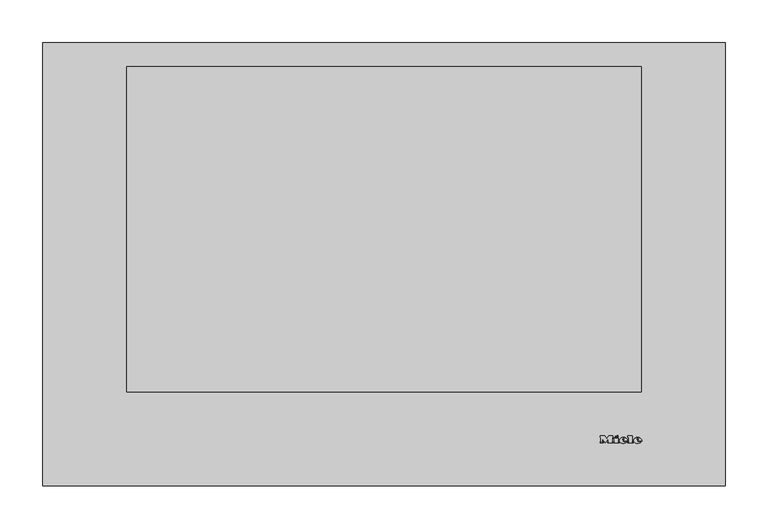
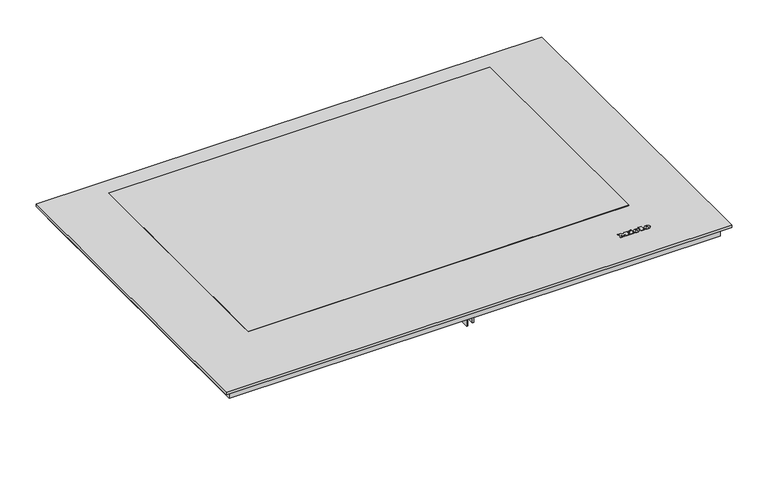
"""IFC4 building model written with IfcOpenShell, lengths in millimetres: proxy geometry, 11249900_I_KM7677FL : 26767770_I_11249900_KM7677FL."""

from ifc_helpers import new_model, si_unit, point, frame, frame_2d, origin, origin_with_axes, place, context, project, spatial, polyline, circle_curve, ellipse_curve, trimmed, segment, composite_curve, outline, extrude, source, transform, mapped, element, save
from ifc_brep_helpers import plane_surface, cylinder_surface, revolved_surface, extruded_surface, advanced_brep


def specialty_equipment_b0dcab6c(model_context):
    return source(origin(), model_context, "Body", "SolidModel", [
        advanced_brep(
        [(296.56, 52.3948833, 4.4802537), (296.56, 53.2028828, 4.4811551), (301.912, 53.2028828, 4.4811551), (292.6, 53.2028828, 4.4811551), (294.8, 50.4988845, 4.4781386), (301.776, 52.3948833, 4.4802537), (299.36, 52.3948833, 4.4802537), (297.456, 51.4988838, 4.4792542), (296.56, 54.2268821, 4.4822974), (296.56, 55.0988816, 4.4832701), (297.928, 55.0988816, 4.4832701), (297.928, 54.2268821, 4.4822974), (296.56, 52.3959988, 3.4802543), (297.456, 51.4999994, 3.4792548), (299.36, 52.3959988, 3.4802543), (301.776, 52.3959988, 3.4802543), (294.8, 50.5, 3.4781393), (292.6, 53.2039983, 3.4811557), (301.912, 53.2039983, 3.4811557), (296.56, 53.2039983, 3.4811557), (296.56, 54.2279977, 3.482298), (297.928, 54.2279977, 3.482298), (297.928, 55.0999971, 3.4832707), (296.56, 55.0999971, 3.4832707)],
        [
            (0, 1),
            (1, 2),
            (2, 3, ellipse_curve(frame((297.256, 53.2028828, 4.4811551), z_axis=(0.0, -0.0011155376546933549, 0.9999993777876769), x_axis=(-1.0, 0.0, 0.0)), 4.656, 3.848)),
            (3, 4, circle_curve(frame((295.6960436, 53.4748826, 4.4814585), z_axis=(0.0, -0.0011155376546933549, 0.9999993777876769), x_axis=(0.0, -0.9999993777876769, -0.0011155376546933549)), 3.1079688)),
            (4, 5, circle_curve(frame((297.1627936, 55.5868813, 4.4838145), z_axis=(0.0, -0.0011155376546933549, 0.9999993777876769), x_axis=(0.0, -0.9999993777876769, -0.0011155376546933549)), 5.6098607)),
            (5, 6),
            (6, 7, circle_curve(frame((297.8470588, 53.1388828, 4.4810837), z_axis=(0.0, 0.0011155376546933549, -0.9999993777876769), x_axis=(0.0, -0.9999993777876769, -0.0011155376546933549)), 1.6859795)),
            (7, 0, circle_curve(frame((297.456, 52.3948833, 4.4802537), z_axis=(0.0, 0.0011155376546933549, -0.9999993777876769), x_axis=(0.0, -0.9999993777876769, -0.0011155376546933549)), 0.896)),
            (8, 9),
            (9, 10, circle_curve(frame((297.244, 55.0988816, 4.4832701), z_axis=(0.0, 0.0011155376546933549, -0.9999993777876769), x_axis=(0.0, -0.9999993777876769, -0.0011155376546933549)), 0.684)),
            (10, 11),
            (11, 8),
            (12, 13, circle_curve(frame((297.456, 52.3959988, 3.4802543), z_axis=(0.0, -0.0011155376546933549, 0.9999993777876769), x_axis=(0.0, -0.9999993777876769, -0.0011155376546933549)), 0.896)),
            (13, 14, circle_curve(frame((297.8470588, 53.1399984, 3.4810843), z_axis=(0.0, -0.0011155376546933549, 0.9999993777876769), x_axis=(0.0, -0.9999993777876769, -0.0011155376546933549)), 1.6859795)),
            (14, 15),
            (15, 16, circle_curve(frame((297.1627936, 55.5879968, 3.4838151), z_axis=(0.0, 0.0011155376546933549, -0.9999993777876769), x_axis=(0.0, -0.9999993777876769, -0.0011155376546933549)), 5.6098607)),
            (16, 17, circle_curve(frame((295.6960436, 53.4759981, 3.4814591), z_axis=(0.0, 0.0011155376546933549, -0.9999993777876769), x_axis=(0.0, -0.9999993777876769, -0.0011155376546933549)), 3.1079688)),
            (17, 18, ellipse_curve(frame((297.256, 53.2039983, 3.4811557), z_axis=(0.0, 0.0011155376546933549, -0.9999993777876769), x_axis=(-1.0, 0.0, 0.0)), 4.656, 3.848)),
            (18, 19),
            (19, 12),
            (20, 21),
            (21, 22),
            (22, 23, circle_curve(frame((297.244, 55.0999971, 3.4832707), z_axis=(0.0, -0.0011155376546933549, 0.9999993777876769), x_axis=(0.0, -0.9999993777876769, -0.0011155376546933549)), 0.684)),
            (23, 20),
            (0, 12),
            (19, 1),
            (18, 2),
            (5, 15),
            (14, 6),
            (17, 3),
            (13, 7),
            (16, 4),
            (8, 20),
            (23, 9),
            (22, 10),
            (21, 11),
        ],
        [
            plane_surface(frame((296.56, 53.2028828, 4.4811551), z_axis=(0.0, -0.0011155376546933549, 0.9999993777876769), x_axis=(0.0, 0.9999993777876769, 0.0011155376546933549))),
            plane_surface(frame((296.56, 53.2039983, 3.4811557), z_axis=(0.0, 0.0011155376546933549, -0.9999993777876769), x_axis=(0.0, -0.9999993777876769, -0.0011155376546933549))),
            plane_surface(frame((296.56, 52.3948833, 4.4802537), z_axis=(1.0000000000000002, 0.0, 0.0), x_axis=(0.0, 0.001115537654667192, -0.999999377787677))),
            plane_surface(frame((296.56, 53.2028828, 4.4811551), z_axis=(0.0, -0.999999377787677, -0.001115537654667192), x_axis=(0.0, 0.001115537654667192, -0.999999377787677))),
            plane_surface(frame((301.776, 52.3948833, 4.4802537), z_axis=(0.0, 0.999999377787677, 0.001115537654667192), x_axis=(0.0, 0.001115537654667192, -0.999999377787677))),
            extruded_surface(trimmed(ellipse_curve(frame((297.256, 53.2051139, 2.4811563), z_axis=(0.0, -0.0011155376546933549, 0.9999993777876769), x_axis=(-1.0, 0.0, 0.0)), 4.656, 3.848), [point((301.912, 53.2051139, 2.4811563))], [point((292.6, 53.2051139, 2.4811563))], True, "CARTESIAN"), (0.0, -0.001115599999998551, 0.9999994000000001), 1.00000002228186),
            revolved_surface(polyline([(297.8470588, 51.454019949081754, 3.479203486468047), (297.8470588, 51.45290441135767, 4.4792029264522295)]), (297.8470588, 53.1399984, 3.4810843), (0.0, 0.0011155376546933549, -0.9999993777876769)),
            revolved_surface(polyline([(297.456, 51.49999935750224, 3.4792547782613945), (297.456, 51.49888381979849, 4.479254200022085)]), (297.456, 52.3959988, 3.4802543), (0.0, 0.0011155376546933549, -0.9999993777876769)),
            cylinder_surface(frame((295.6960436, 53.4759981, 3.4814591), z_axis=(0.0, -0.0011155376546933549, 0.9999993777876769), x_axis=(0.0, -0.9999993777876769, -0.0011155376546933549)), 3.1079688),
            cylinder_surface(frame((297.1627936, 55.5879968, 3.4838151), z_axis=(0.0, -0.0011155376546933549, 0.9999993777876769), x_axis=(0.0, -0.9999993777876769, -0.0011155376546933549)), 5.6098607),
            plane_surface(frame((296.56, 54.2268821, 4.4822974), z_axis=(1.0000000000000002, 0.0, 0.0), x_axis=(0.0, 0.001115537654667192, -0.999999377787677))),
            revolved_surface(polyline([(297.244, 54.415997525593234, 3.4825076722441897), (297.244, 54.41488198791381, 4.482507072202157)]), (297.244, 55.0999971, 3.4832707), (0.0, 0.0011155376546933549, -0.9999993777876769)),
            plane_surface(frame((297.928, 55.0988816, 4.4832701), z_axis=(-1.0000000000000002, 0.0, 0.0), x_axis=(0.0, 0.001115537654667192, -0.999999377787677))),
            plane_surface(frame((297.928, 54.2268821, 4.4822974), z_axis=(0.0, 0.999999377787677, 0.001115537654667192), x_axis=(0.0, 0.001115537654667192, -0.999999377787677))),
        ],
        [
            (0, [[1, 2, 3, 4, 5, 6, 7, 8], [9, 10, 11, 12]]),
            (1, [[13, 14, 15, 16, 17, 18, 19, 20], [21, 22, 23, 24]]),
            (2, [[-1, 25, -20, 26]]),
            (3, [[-2, -26, -19, 27]]),
            (4, [[-6, 28, -15, 29]]),
            (5, [[-3, -27, -18, 30]]),
            (6, [[-7, -29, -14, 31]]),
            (7, [[-8, -31, -13, -25]]),
            (8, [[-4, -30, -17, 32]]),
            (9, [[-5, -32, -16, -28]]),
            (10, [[-9, 33, -24, 34]]),
            (11, [[-10, -34, -23, 35]]),
            (12, [[-11, -35, -22, 36]]),
            (13, [[-12, -36, -21, -33]]),
        ],
    ),
        advanced_brep(
        [(279.864, 52.3948833, 4.4802537), (279.864, 53.2028828, 4.4811551), (285.216, 53.2028828, 4.4811551), (275.904, 53.2028828, 4.4811551), (278.104, 50.4988845, 4.4781386), (285.08, 52.3948833, 4.4802537), (282.664, 52.3948833, 4.4802537), (280.76, 51.4988838, 4.4792542), (279.864, 54.2268821, 4.4822974), (279.864, 55.0988816, 4.4832701), (281.232, 55.0988816, 4.4832701), (281.232, 54.2268821, 4.4822974), (279.864, 52.3959988, 3.4802543), (280.76, 51.4999994, 3.4792548), (282.664, 52.3959988, 3.4802543), (285.08, 52.3959988, 3.4802543), (278.104, 50.5, 3.4781393), (275.904, 53.2039983, 3.4811557), (285.216, 53.2039983, 3.4811557), (279.864, 53.2039983, 3.4811557), (279.864, 54.2279977, 3.482298), (281.232, 54.2279977, 3.482298), (281.232, 55.0999971, 3.4832707), (279.864, 55.0999971, 3.4832707)],
        [
            (0, 1),
            (1, 2),
            (2, 3, ellipse_curve(frame((280.56, 53.2028828, 4.4811551), z_axis=(0.0, -0.0011155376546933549, 0.9999993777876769), x_axis=(-1.0, 0.0, 0.0)), 4.656, 3.848)),
            (3, 4, circle_curve(frame((279.0000436, 53.4748826, 4.4814585), z_axis=(0.0, -0.0011155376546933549, 0.9999993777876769), x_axis=(0.0, -0.9999993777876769, -0.0011155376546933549)), 3.1079688)),
            (4, 5, circle_curve(frame((280.4667936, 55.5868813, 4.4838145), z_axis=(0.0, -0.0011155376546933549, 0.9999993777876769), x_axis=(0.0, -0.9999993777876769, -0.0011155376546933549)), 5.6098607)),
            (5, 6),
            (6, 7, circle_curve(frame((281.1510588, 53.1388828, 4.4810837), z_axis=(0.0, 0.0011155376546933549, -0.9999993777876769), x_axis=(0.0, -0.9999993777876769, -0.0011155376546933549)), 1.6859795)),
            (7, 0, circle_curve(frame((280.76, 52.3948833, 4.4802537), z_axis=(0.0, 0.0011155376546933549, -0.9999993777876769), x_axis=(0.0, -0.9999993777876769, -0.0011155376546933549)), 0.896)),
            (8, 9),
            (9, 10, circle_curve(frame((280.548, 55.0988816, 4.4832701), z_axis=(0.0, 0.0011155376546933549, -0.9999993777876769), x_axis=(0.0, -0.9999993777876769, -0.0011155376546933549)), 0.684)),
            (10, 11),
            (11, 8),
            (12, 13, circle_curve(frame((280.76, 52.3959988, 3.4802543), z_axis=(0.0, -0.0011155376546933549, 0.9999993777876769), x_axis=(0.0, -0.9999993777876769, -0.0011155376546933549)), 0.896)),
            (13, 14, circle_curve(frame((281.1510588, 53.1399984, 3.4810843), z_axis=(0.0, -0.0011155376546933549, 0.9999993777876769), x_axis=(0.0, -0.9999993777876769, -0.0011155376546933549)), 1.6859795)),
            (14, 15),
            (15, 16, circle_curve(frame((280.4667936, 55.5879968, 3.4838151), z_axis=(0.0, 0.0011155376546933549, -0.9999993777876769), x_axis=(0.0, -0.9999993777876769, -0.0011155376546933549)), 5.6098607)),
            (16, 17, circle_curve(frame((279.0000436, 53.4759981, 3.4814591), z_axis=(0.0, 0.0011155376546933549, -0.9999993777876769), x_axis=(0.0, -0.9999993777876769, -0.0011155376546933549)), 3.1079688)),
            (17, 18, ellipse_curve(frame((280.56, 53.2039983, 3.4811557), z_axis=(0.0, 0.0011155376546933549, -0.9999993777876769), x_axis=(-1.0, 0.0, 0.0)), 4.656, 3.848)),
            (18, 19),
            (19, 12),
            (20, 21),
            (21, 22),
            (22, 23, circle_curve(frame((280.548, 55.0999971, 3.4832707), z_axis=(0.0, -0.0011155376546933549, 0.9999993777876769), x_axis=(0.0, -0.9999993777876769, -0.0011155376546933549)), 0.684)),
            (23, 20),
            (0, 12),
            (19, 1),
            (18, 2),
            (5, 15),
            (14, 6),
            (17, 3),
            (13, 7),
            (16, 4),
            (8, 20),
            (23, 9),
            (22, 10),
            (21, 11),
        ],
        [
            plane_surface(frame((279.864, 53.2028828, 4.4811551), z_axis=(0.0, -0.0011155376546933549, 0.9999993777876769), x_axis=(0.0, 0.9999993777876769, 0.0011155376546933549))),
            plane_surface(frame((279.864, 53.2039983, 3.4811557), z_axis=(0.0, 0.0011155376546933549, -0.9999993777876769), x_axis=(0.0, -0.9999993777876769, -0.0011155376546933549))),
            plane_surface(frame((279.864, 52.3948833, 4.4802537), z_axis=(1.0000000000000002, 0.0, 0.0), x_axis=(0.0, 0.001115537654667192, -0.999999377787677))),
            plane_surface(frame((279.864, 53.2028828, 4.4811551), z_axis=(0.0, -0.999999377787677, -0.001115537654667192), x_axis=(0.0, 0.001115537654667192, -0.999999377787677))),
            plane_surface(frame((285.08, 52.3948833, 4.4802537), z_axis=(0.0, 0.999999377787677, 0.001115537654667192), x_axis=(0.0, 0.001115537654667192, -0.999999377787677))),
            extruded_surface(trimmed(ellipse_curve(frame((280.56, 53.2051139, 2.4811563), z_axis=(0.0, -0.0011155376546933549, 0.9999993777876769), x_axis=(-1.0, 0.0, 0.0)), 4.656, 3.848), [point((285.216, 53.2051139, 2.4811563))], [point((275.904, 53.2051139, 2.4811563))], True, "CARTESIAN"), (0.0, -0.001115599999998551, 0.9999994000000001), 1.00000002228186),
            revolved_surface(polyline([(281.1510588, 51.454019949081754, 3.479203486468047), (281.1510588, 51.45290441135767, 4.4792029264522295)]), (281.1510588, 53.1399984, 3.4810843), (0.0, 0.0011155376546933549, -0.9999993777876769)),
            revolved_surface(polyline([(280.76, 51.49999935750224, 3.4792547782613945), (280.76, 51.49888381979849, 4.479254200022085)]), (280.76, 52.3959988, 3.4802543), (0.0, 0.0011155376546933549, -0.9999993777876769)),
            cylinder_surface(frame((279.0000436, 53.4759981, 3.4814591), z_axis=(0.0, -0.0011155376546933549, 0.9999993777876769), x_axis=(0.0, -0.9999993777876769, -0.0011155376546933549)), 3.1079688),
            cylinder_surface(frame((280.4667936, 55.5879968, 3.4838151), z_axis=(0.0, -0.0011155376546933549, 0.9999993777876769), x_axis=(0.0, -0.9999993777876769, -0.0011155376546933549)), 5.6098607),
            plane_surface(frame((279.864, 54.2268821, 4.4822974), z_axis=(1.0000000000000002, 0.0, 0.0), x_axis=(0.0, 0.001115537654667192, -0.999999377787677))),
            revolved_surface(polyline([(280.548, 54.415997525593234, 3.4825076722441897), (280.548, 54.41488198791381, 4.482507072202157)]), (280.548, 55.0999971, 3.4832707), (0.0, 0.0011155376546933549, -0.9999993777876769)),
            plane_surface(frame((281.232, 55.0988816, 4.4832701), z_axis=(-1.0000000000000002, 0.0, 0.0), x_axis=(0.0, 0.001115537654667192, -0.999999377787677))),
            plane_surface(frame((281.232, 54.2268821, 4.4822974), z_axis=(0.0, 0.999999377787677, 0.001115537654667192), x_axis=(0.0, 0.001115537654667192, -0.999999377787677))),
        ],
        [
            (0, [[1, 2, 3, 4, 5, 6, 7, 8], [9, 10, 11, 12]]),
            (1, [[13, 14, 15, 16, 17, 18, 19, 20], [21, 22, 23, 24]]),
            (2, [[-1, 25, -20, 26]]),
            (3, [[-2, -26, -19, 27]]),
            (4, [[-6, 28, -15, 29]]),
            (5, [[-3, -27, -18, 30]]),
            (6, [[-7, -29, -14, 31]]),
            (7, [[-8, -31, -13, -25]]),
            (8, [[-4, -30, -17, 32]]),
            (9, [[-5, -32, -16, -28]]),
            (10, [[-9, 33, -24, 34]]),
            (11, [[-10, -34, -23, 35]]),
            (12, [[-11, -35, -22, 36]]),
            (13, [[-12, -36, -21, -33]]),
        ],
    ),
        extrude(outline(polyline([(0.0, 0.0), (-0.0109086, -2.9993294), (-1.4390415, -2.9920868), (-1.4315307, 0.0), (0.0, 0.0)])), frame((271.12, 58.0279953, 3.486537), z_axis=(0.0, -0.001115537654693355, 0.999999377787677), x_axis=(-0.4247202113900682, 0.9053240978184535, 0.0010099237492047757)), (0.0, 0.0, 1.0), 1.0),
        extrude(outline(polyline([(-0.4933908, 2.4141097), (-2.7800844, -2.4601583), (-7.0459741, -0.4588767), (-7.4401145, -1.299018), (-8.6568709, -0.728194), (-5.9760369, 4.9862153), (-4.7592805, 4.4153913), (-5.1636142, 3.5535222), (-2.1941493, 2.1604399), (-1.7898157, 3.022309), (-0.4933908, 2.4141097)])), frame((271.12, 58.0279953, 3.486537), z_axis=(0.0, -0.001115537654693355, 0.999999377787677), x_axis=(-0.4247202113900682, 0.9053240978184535, 0.0010099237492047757)), (0.0, 0.0, 1.0), 1.0),
        extrude(outline(polyline([(0.0, 0.0), (0.0, -1.304), (-5.504, -1.304), (-5.504, 5.3519999), (-6.488, 5.3519999), (-6.488, 6.696), (0.0, 6.696), (0.0, 5.3519999), (-0.96, 5.3519999), (-0.96, 0.0), (0.0, 0.0)])), frame((285.664, 57.1959958, 3.4856089), z_axis=(0.0, -0.0011155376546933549, 0.9999993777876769), x_axis=(-1.0, 0.0, 0.0)), (0.0, 0.0, 1.0), 1.0),
        extrude(outline(polyline([(0.0, 0.0), (0.0, -1.304), (-5.576, -1.304), (-7.92, 1.696), (-10.256, -1.304), (-15.128, -1.304), (-15.128, 0.0), (-14.112, 0.0), (-14.112, 5.3519999), (-15.128, 5.3519999), (-15.128, 6.696), (-8.744, 6.696), (-8.744, 5.3519999), (-9.728, 5.3519999), (-9.728, 1.8807777), (-6.136, 6.696), (-2.56, 1.9488752), (-2.56, 5.3519999), (-3.52, 5.3519999), (-3.52, 6.696), (0.0, 6.696), (0.0, 5.3519999), (-0.968, 5.3519999), (-0.968, 0.0), (0.0, 0.0)])), frame((253.2, 57.1959958, 3.4856089), z_axis=(0.0, -0.0011155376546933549, 0.9999993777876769), x_axis=(-1.0, 0.0, 0.0)), (0.0, 0.0, 1.0), 1.0),
        extrude(outline(polyline([(210.7772603, 459.5), (203.4, 459.5), (203.4, 460.7557039), (209.5215564, 460.7557039), (209.5215564, 464.0519266), (203.870889, 464.0519266), (203.870889, 465.3076304), (209.5215564, 465.3076304), (209.5215564, 468.2899271), (203.556963, 468.2899271), (203.556963, 469.545631), (210.7772603, 469.545631), (210.7772603, 459.5)])), frame((0.0, 0.0, -77.5), z_axis=(0.0, 0.0, 1.0), x_axis=(1.0, 0.0, 0.0)), (0.0, 0.0, 1.0), 1.0),
        extrude(outline(polyline([(201.5164442, 459.5), (195.2379248, 459.5), (195.2379248, 460.7557039), (200.2607403, 460.7557039), (200.2607403, 469.545631), (201.5164442, 469.545631), (201.5164442, 459.5)])), frame((0.0, 0.0, -77.5), z_axis=(0.0, 0.0, 1.0), x_axis=(1.0, 0.0, 0.0)), (0.0, 0.0, 1.0), 1.0),
        extrude(outline(polyline([(14.0, -27.0), (14.0, -16.8), (58.0, -16.8), (58.0, -43.0), (30.0, -43.0), (30.0, -27.0), (14.0, -27.0)])), frame((-2.0, 0.0, 0.0), z_axis=(1.0, 0.0, 0.0), x_axis=(0.0, 1.0, 0.0)), (0.0, 0.0, 1.0), 2.0),
        extrude(outline(polyline([(490.0, -27.0), (490.0, -43.0), (478.0, -43.0), (478.0, -16.8), (506.0, -16.8), (506.0, -27.0), (490.0, -27.0)])), frame((-2.0, 0.0, 0.0), z_axis=(1.0, 0.0, 0.0), x_axis=(0.0, 1.0, 0.0)), (0.0, 0.0, 1.0), 2.0),
        extrude(outline(polyline([(265.5, 478.0), (265.5, 58.0), (-265.5, 58.0), (-265.5, 478.0), (265.5, 478.0)])), frame((0.0, 0.0, -46.5), z_axis=(0.0, 0.0, 1.0), x_axis=(1.0, 0.0, 0.0)), (0.0, 0.0, 1.0), 29.7),
        extrude(outline(polyline([(400.0, 520.0), (400.0, 0.0), (-400.0, 0.0), (-400.0, 520.0), (400.0, 520.0)])), origin_with_axes(), (0.0, 0.0, 1.0), 4.0),
        extrude(outline(polyline([(388.5, 508.5), (388.5, 11.5), (-388.5, 11.5), (-388.5, 508.5), (388.5, 508.5)])), frame((0.0, 0.0, -16.8), z_axis=(0.0, 0.0, 1.0), x_axis=(1.0, 0.0, 0.0)), (0.0, 0.0, 1.0), 16.8),
        extrude(outline(composite_curve([segment(trimmed(circle_curve(frame_2d((203.4, 464.5)), 7.5), [point((203.4, 472.0))], [point((203.4, 457.0))], False, "CARTESIAN"), True, "CONTINUOUS"), segment(trimmed(circle_curve(frame_2d((203.4, 464.5)), 7.5), [point((203.4, 457.0))], [point((203.4, 472.0))], False, "CARTESIAN"), True, "CONTINUOUS")], self_intersect=False)), frame((0.0, 0.0, -76.5), z_axis=(0.0, 0.0, 1.0), x_axis=(1.0, 0.0, 0.0)), (0.0, 0.0, 1.0), 30.0),
        extrude(outline(polyline([(301.5, 492.05), (301.5, 110.55), (-301.5, 110.55), (-301.5, 492.05), (301.5, 492.05)])), frame((0.0, 0.0, 4.0), z_axis=(0.0, 0.0, 1.0), x_axis=(1.0, 0.0, 0.0)), (0.0, 0.0, 1.0), 1.0),
        extrude(outline(composite_curve([segment(trimmed(circle_curve(frame_2d((-381.0, 80.0)), 3.0), [point((-381.0, 83.0))], [point((-381.0, 77.0))], False, "CARTESIAN"), True, "CONTINUOUS"), segment(trimmed(circle_curve(frame_2d((-381.0, 80.0)), 3.0), [point((-381.0, 77.0))], [point((-381.0, 83.0))], False, "CARTESIAN"), True, "CONTINUOUS")], self_intersect=False)), frame((0.0, 0.0, -22.0), z_axis=(0.0, 0.0, 1.0), x_axis=(1.0, 0.0, 0.0)), (0.0, 0.0, 1.0), 5.2),
        extrude(outline(composite_curve([segment(trimmed(circle_curve(frame_2d((381.0, 440.0)), 3.0), [point((381.0, 443.0))], [point((381.0, 437.0))], False, "CARTESIAN"), True, "CONTINUOUS"), segment(trimmed(circle_curve(frame_2d((381.0, 440.0)), 3.0), [point((381.0, 437.0))], [point((381.0, 443.0))], False, "CARTESIAN"), True, "CONTINUOUS")], self_intersect=False)), frame((0.0, 0.0, -22.0), z_axis=(0.0, 0.0, 1.0), x_axis=(1.0, 0.0, 0.0)), (0.0, 0.0, 1.0), 5.2),
    ])


if __name__ == "__main__":
    model = new_model("IFC4")
    model_context = context("Model", 3, world=origin())
    ifc_project = project(units=[si_unit("LENGTHUNIT", "METRE", prefix="MILLI")], contexts=[model_context])
    site = spatial("IfcSite", under=ifc_project)
    building = spatial("IfcBuilding", under=site)
    placement = place(None, origin())
    specialty_equipment_shape = specialty_equipment_b0dcab6c(model_context)
    element("IfcBuildingElementProxy", 1, Name="11249900_I_KM7677FL : 26767770_I_11249900_KM7677FL", ObjectType="11249900_I_KM7677FL : 26767770_I_11249900_KM7677FL", at=placement, inside=building, context=model_context, shape_type="MappedRepresentation", body=[
        mapped(specialty_equipment_shape, transform((0.0, 0.0, 0.0), x_axis=(1.0, 0.0, 0.0), y_axis=(0.0, 1.0, 0.0), z_axis=(0.0, 0.0, 1.0))),
    ])
    save(model, "model.ifc")
